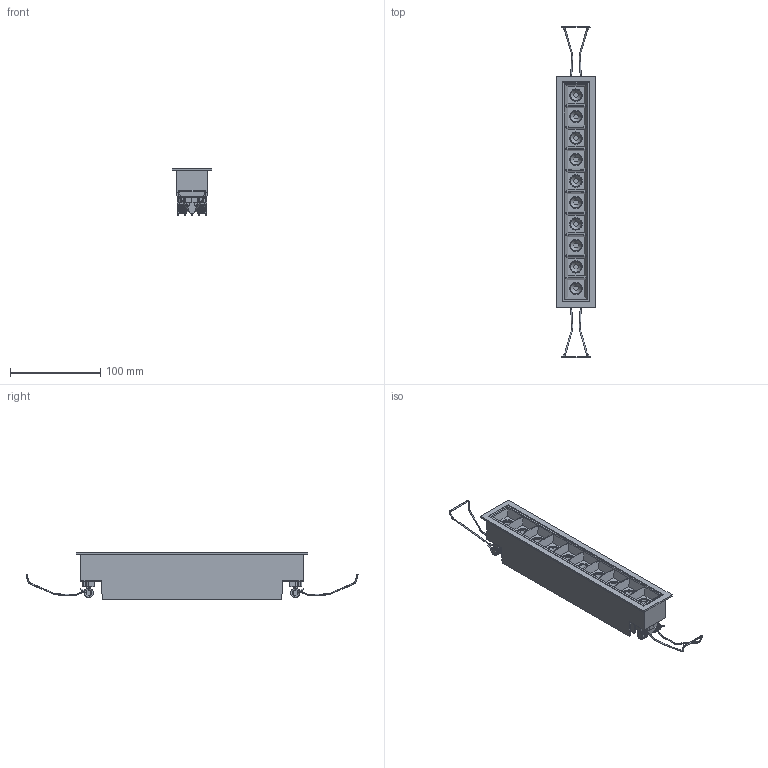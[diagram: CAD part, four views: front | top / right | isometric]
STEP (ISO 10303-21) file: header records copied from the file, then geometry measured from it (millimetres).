
FILE_DESCRIPTION(/* description */ (''),/* implementation_level */ '2;1');
FILE_NAME(/* name */ 'C:\Users\FrancoSartori\Documents\FARO\01_En Proceso\0000_2022\000_PRO\00_TROOP\03_Publicación\43703.stp',/* time_stamp */ '2022-06-15T12:35:10+02:00',/* author */ ('FrancoSartori'),/* organization */ (''),/* preprocessor_version */ 'ST-DEVELOPER v19',/* originating_system */ 'AutoCAD Mechanical',/* authorisation */ '');
FILE_SCHEMA (('AUTOMOTIVE_DESIGN { 1 0 10303 214 3 1 1 }'));
Products named in the file (4): Product; 43703_ - GRUND-438853-View 1; 43703_ - 43703_2022_dwg_4-438836-View 1; 43703_ - 43703_2022_dwg_4-438836-View 1_1
Assembly tree (3 placements, depth 3):
  Product
    43703_ - GRUND-438853-View 1
      43703_ - 43703_2022_dwg_4-438836-View 1
      43703_ - 43703_2022_dwg_4-438836-View 1_1
Bounding box: 44 x 367.99 x 52 mm (x, y, z)
Volume: 176564 mm3; surface area: 145727.6 mm2
Topology: 25 solids, 229 shells, 664 faces, 1918 edges, 1494 vertices
Faces by surface type: plane 316, bspline 240, cylinder 106, cone 2
Entity records: 101367 total; most frequent: CARTESIAN_POINT 85619, ORIENTED_EDGE 3028, DIRECTION 2326, EDGE_CURVE 1918, VERTEX_POINT 1494, LINE 900, VECTOR 900, EDGE_LOOP 714
